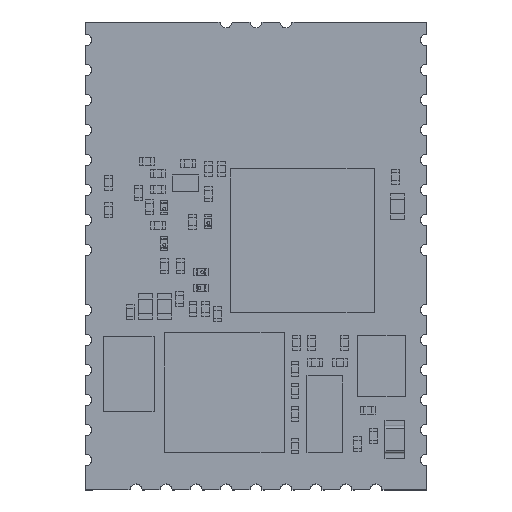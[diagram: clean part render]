
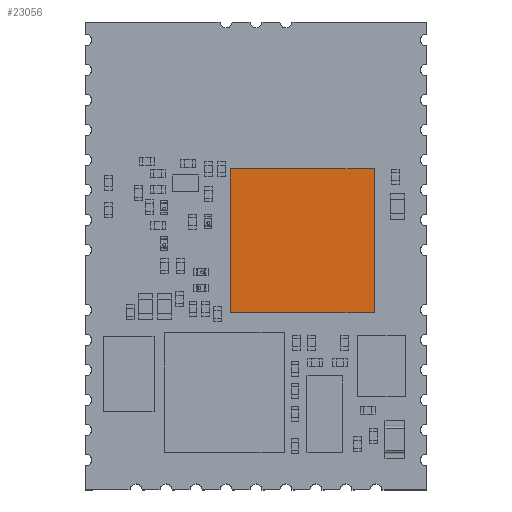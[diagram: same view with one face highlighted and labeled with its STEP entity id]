
A CAD part, top view. The second image highlights one B-rep face of the part: STEP entity #23056.
In plain terms, the highlighted planar face has unit normal (0, 0, 1).
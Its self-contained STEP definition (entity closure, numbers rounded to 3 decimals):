
#22927 = VERTEX_POINT('',#22928);
#22928 = CARTESIAN_POINT('',(-3.,-3.,1.));
#22934 = EDGE_CURVE('',#22927,#22935,#22937,.T.);
#22935 = VERTEX_POINT('',#22936);
#22936 = CARTESIAN_POINT('',(3.,-3.,1.));
#22937 = LINE('',#22938,#22939);
#22938 = CARTESIAN_POINT('',(-3.,-3.,1.));
#22939 = VECTOR('',#22940,1.);
#22940 = DIRECTION('',(1.,0.,0.));
#22965 = EDGE_CURVE('',#22935,#22966,#22968,.T.);
#22966 = VERTEX_POINT('',#22967);
#22967 = CARTESIAN_POINT('',(3.,3.,1.));
#22968 = LINE('',#22969,#22970);
#22969 = CARTESIAN_POINT('',(3.,-3.,1.));
#22970 = VECTOR('',#22971,1.);
#22971 = DIRECTION('',(0.,1.,0.));
#22996 = EDGE_CURVE('',#22966,#22997,#22999,.T.);
#22997 = VERTEX_POINT('',#22998);
#22998 = CARTESIAN_POINT('',(-3.,3.,1.));
#22999 = LINE('',#23000,#23001);
#23000 = CARTESIAN_POINT('',(3.,3.,1.));
#23001 = VECTOR('',#23002,1.);
#23002 = DIRECTION('',(-1.,0.,0.));
#23027 = EDGE_CURVE('',#22997,#22927,#23028,.T.);
#23028 = LINE('',#23029,#23030);
#23029 = CARTESIAN_POINT('',(-3.,3.,1.));
#23030 = VECTOR('',#23031,1.);
#23031 = DIRECTION('',(0.,-1.,0.));
#23056 = ADVANCED_FACE('',(#23057),#23063,.F.);
#23057 = FACE_BOUND('',#23058,.T.);
#23058 = EDGE_LOOP('',(#23059,#23060,#23061,#23062));
#23059 = ORIENTED_EDGE('',*,*,#22934,.T.);
#23060 = ORIENTED_EDGE('',*,*,#22965,.T.);
#23061 = ORIENTED_EDGE('',*,*,#22996,.T.);
#23062 = ORIENTED_EDGE('',*,*,#23027,.T.);
#23063 = PLANE('',#23064);
#23064 = AXIS2_PLACEMENT_3D('',#23065,#23066,#23067);
#23065 = CARTESIAN_POINT('',(-3.,-3.,1.));
#23066 = DIRECTION('',(0.,0.,-1.));
#23067 = DIRECTION('',(-1.,0.,0.));
